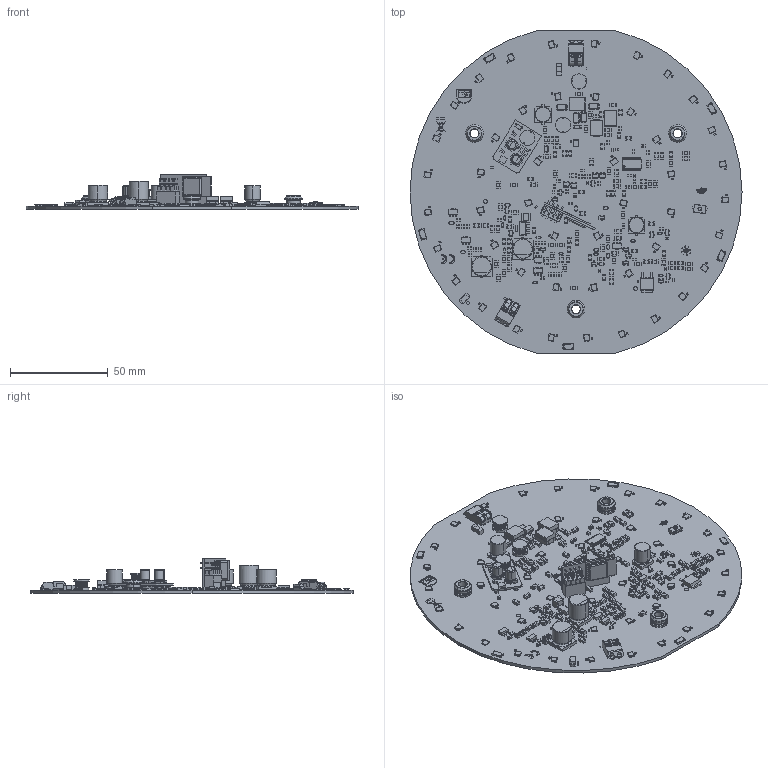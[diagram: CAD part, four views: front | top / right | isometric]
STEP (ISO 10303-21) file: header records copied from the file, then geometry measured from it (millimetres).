
FILE_DESCRIPTION (( 'STEP AP214' ), '1' );
FILE_NAME ('FLAT-AC-wireless BL-1500.STEP', '2023-07-07T11:39:12', ( '' ), ( '' ), 'SwSTEP 2.0', 'SolidWorks 2023', '' );
FILE_SCHEMA (( 'AUTOMOTIVE_DESIGN' ));
Length unit declared in the file: millimetre
Products named in the file (50): 024_1206_FLEX_SMD_Standard; 024_0805_SMD_Standard; 04X_DO219AA_SMD_AA; 1q14482316en00a_20230606_Standard; 073_WAGO2060-452_D30001589_Standard; 021_065055073_008019_SMD_Standard; 032_BOURNS_SDR0805_SMD_Standard; 013_0402_SMD_R_013_0402_SMD_Standard; 055_ZZ_SEOUL_5630_STW8Q14D_SMD_Standard; 021_101085105_011031_SMD_Standard; 021_100105105_011043_SMD_Standard; 011_0805_SMD_Standard; 024_1812_H037_SMD_Standard; 061_TSSOP38_050_0660_SMD_Standard; 061_SO08-N7_127_0620_SMD_Standard; 077_TC_POINT_020_077_TC_POINT; 011_0402_SMD_Standard; 034_0805_BEAD_SMD_Res; 091_LED_MODULE_8MM_SS_091_LED_MODULE; 079_075044027_SMD_D02715632_Standard; 06X_SOT23_SMD_Standard; 04X_TO252_DPAK_SMD_Standard; 072_TRACKFUSE_DUMMY_003_072_TRACKFUSE_DUMMY; Power supply; 061_SOT23-5_TPS2051B_Standard; 04X_TO243AA_SOT89_SMD_Standard; 061_SOT-23_6_D30040881_Standard; 04X_SOT23_SMD_Standard; bluetooth; 080_SNAPFIX-BUSHING-TIN_M4_D02978329_E-CAD_Detailled; 014_3225_048_SMD_Standard; 8pin-socket; 091_CELABEL_SS_050_091_CELABEL; 04X_SOD323_SMD_Standard; 034_0805_BEAD_SMD_RS_034_0805_BEAD_SMD_Standard; 06X_TO243AA_SOT89_SMD_Standard; P073_HARWIN_325165_1PIN_SMD_R_P073_HARWIN_325165_SMD; P091_WEEE_MARK_SS_P091_WEEE; 072_AEM-MF_2410_SMD_Standard; 1q13346622en00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
Assembly tree (367 placements, depth 3):
  011_0603_SMD_Standard
  FLAT-AC-wireless  BL-1500
    1q14482316en00a_20230606_Standard
    011_1206_SMD_Standard  x98
    055_XS-GW-JTLPS1_SMD_ADV  x48
    011_0402_SMD_Standard  x48
    024_0603_SMD_Standard  x16
    P073_HARWIN_325165_1PIN_SMD_R_P073_HARWIN_325165_SMD  x4
    04X_SOT23_SMD_Standard  x12
    024_0805_SMD_Standard  x17
    072_AEM-MF_2410_SMD_Standard
    072_TRACKFUSE_DUMMY_003_072_TRACKFUSE_DUMMY  x2
    073_WAGO2060-452_D30001589_Standard  x2
    024_1812_H037_SMD_Standard
    014_3225_048_SMD_Standard  x3
    080_SNAPFIX-BUSHING-TIN_M4_D02978329_E-CAD_Detailled  x3
    055_ZZ_SEOUL_5630_STW8Q14D_SMD_Standard  x5
    024_1206_FLEX_SMD_Standard  x8
    04X_DO214AC_SMA_SMD_Standard  x5
    011_0805_SMD_Standard  x13
    061_TSSOP38_050_0660_SMD_Standard
    032_FASTRON-1616FPS_SMD_Standard
    032_BOURNS_SDR0805_SMD_Standard  x2
    04X_SOD323_SMD_Standard  x19
    021_101085105_011031_SMD_Standard  x2
    04X_DO219AA_SMD_AA  x2
    021_115105105_011043_SMD_Standard
    013_0402_SMD_R_013_0402_SMD_Standard
    044_SOT23_PNP_SMD_Standard
    04X_TO243AA_SOT89_SMD_Standard  x2
    04X_TO252_DPAK_SMD_Standard
    077_TC_POINT_020_077_TC_POINT  x2
    04X_SOT223-4_SMD_Standard
    P091_WEEE_MARK_SS_P091_WEEE
    06X_TO243AA_SOT89_SMD_Standard  x3
    091_LED_MODULE_8MM_SS_091_LED_MODULE
    091_CELABEL_SS_050_091_CELABEL
    034_0805_BEAD_SMD_RS_034_0805_BEAD_SMD_Standard  x3
    06X_SOT23_SMD_Standard  x2
    061_SOT23-5_TPS2051B_Standard  x4
    079_075044027_SMD_D02715632_Standard
    Power supply
      1q13346622en00
      024_1206_FLEX_SMD_Standard
      011_1206_SMD_Standard
      032_BOURNS_SDR0805_SMD_Standard
      024_0805_SMD_Standard  x3
      P073_HARWIN_325165_1PIN_SMD_R_P073_HARWIN_325165_SMD  x4
      024_0603_SMD_Standard  x3
      04X_DO219AA_SMD_AA  x3
      061_SO08-N7_127_0620_SMD_Standard
      011_0805_SMD_Standard
      021_065055073_008019_SMD_Standard  x2
      061_SOT-23_6_D30040881_Standard
      034_0805_BEAD_SMD_Res
      04X_SOD323_SMD_Standard
    bluetooth
    8pin-socket
    021_100105105_011043_SMD_Standard
Bounding box: 170 x 165 x 17.6 mm (x, y, z)
Volume: 45487.8 mm3; surface area: 63507.2 mm2
Topology: 404 solids, 404 shells, 10860 faces, 27519 edges, 17942 vertices
Faces by surface type: plane 9055, cylinder 1618, torus 108, cone 32, bspline 31, sphere 16
Entity records: 94070 total; most frequent: CARTESIAN_POINT 19182, DIRECTION 14954, ORIENTED_EDGE 14840, EDGE_CURVE 7420, VECTOR 6202, LINE 6202, VERTEX_POINT 4706, AXIS2_PLACEMENT_3D 4376
